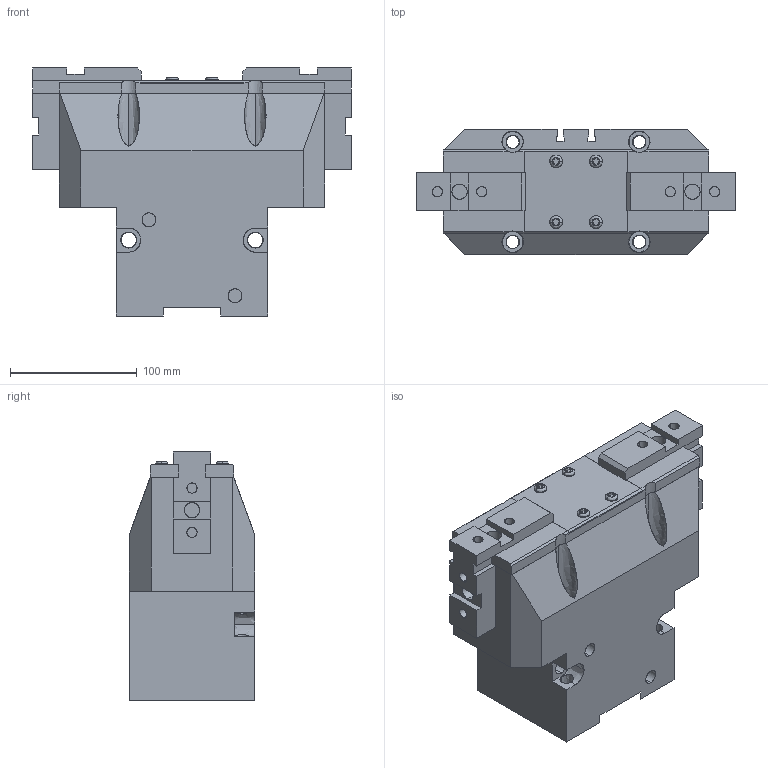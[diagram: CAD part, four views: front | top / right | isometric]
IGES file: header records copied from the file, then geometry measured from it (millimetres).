
Global section: file name: C:\Documents and Settings\Administrateur\Mes documents\OPE-210-S-OPEN.igs; native system: AutoCAD-16.0s (LMS Tech) (Microsoft Windows NT Version 5.1 (x86)); preprocessor: Autodesk IGES Translator Mechanical Desktop.R7.0.43.0 (Mar 18 2003) from Autodesk, Inc.; date: 20050630.063326; units: millimetre
Bounding box: 252 x 99 x 196 mm (x, y, z)
Surface area: 275811.7 mm2 (no closed solid volume)
Topology: 0 solids, 0 shells, 295 faces, 3194 edges, 3288 vertices
Faces by surface type: bspline 295
